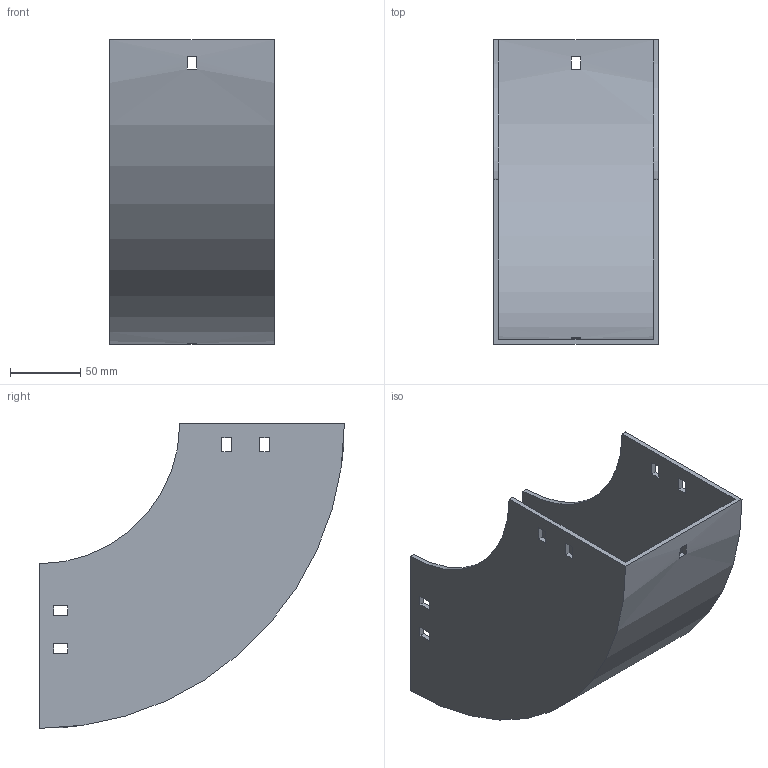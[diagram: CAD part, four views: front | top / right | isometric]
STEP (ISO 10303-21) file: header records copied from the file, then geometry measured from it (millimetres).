
FILE_DESCRIPTION (( 'STEP AP214' ), '1' );
FILE_NAME ('30B1J117.step', '2025-02-21T09:48:55', ( '' ), ( '' ), 'SwSTEP 2.0', 'SolidWorks 2023', '' );
FILE_SCHEMA (( 'AUTOMOTIVE_DESIGN' ));
Length unit declared in the file: millimetre
Products named in the file (1): 30B1J117
Bounding box: 117.5 x 217.5 x 217.5 mm (x, y, z)
Volume: 333800.4 mm3; surface area: 195450 mm2
Topology: 1 solids, 1 shells, 50 faces, 144 edges, 96 vertices
Faces by surface type: plane 46, cylinder 4
Entity records: 1687 total; most frequent: CARTESIAN_POINT 291, ORIENTED_EDGE 288, DIRECTION 262, EDGE_CURVE 144, LINE 128, VECTOR 128, VERTEX_POINT 96, EDGE_LOOP 70
